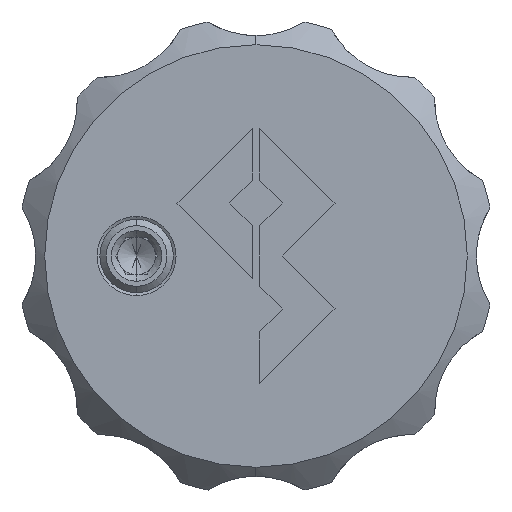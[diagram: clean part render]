
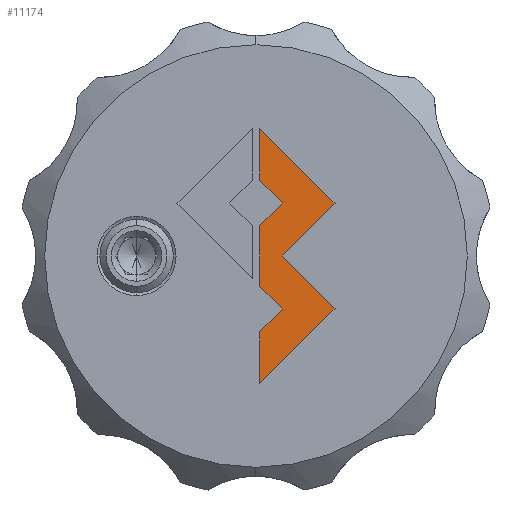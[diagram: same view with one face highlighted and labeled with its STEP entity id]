
A CAD part, left-side view. The second image highlights one B-rep face of the part: STEP entity #11174.
In plain terms, the highlighted planar face has unit normal (-1, 0, 0).
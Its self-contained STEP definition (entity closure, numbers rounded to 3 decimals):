
#100 = CARTESIAN_POINT ( 'NONE',  ( -22.7, -4.3, 2.857 ) ) ;
#262 = CARTESIAN_POINT ( 'NONE',  ( -22.7, -1.443, -2.886 ) ) ;
#285 = LINE ( 'NONE', #8106, #8579 ) ;
#389 = LINE ( 'NONE', #11856, #10305 ) ;
#474 = ORIENTED_EDGE ( 'NONE', *, *, #8766, .T. ) ;
#487 = ORIENTED_EDGE ( 'NONE', *, *, #11061, .T. ) ;
#881 = DIRECTION ( 'NONE',  ( 0., -0.707, -0.707 ) ) ;
#996 = EDGE_CURVE ( 'NONE', #5430, #5493, #1130, .T. ) ;
#1119 = EDGE_CURVE ( 'NONE', #5390, #10903, #389, .T. ) ;
#1130 = LINE ( 'NONE', #9360, #4701 ) ;
#1617 = CARTESIAN_POINT ( 'NONE',  ( -22.7, -0.2, -6.957 ) ) ;
#2058 = VERTEX_POINT ( 'NONE', #12307 ) ;
#2248 = LINE ( 'NONE', #3386, #9261 ) ;
#2277 = ORIENTED_EDGE ( 'NONE', *, *, #9490, .T. ) ;
#2311 = DIRECTION ( 'NONE',  ( 0., 0.707, -0.707 ) ) ;
#2503 = EDGE_CURVE ( 'NONE', #5493, #6856, #10407, .T. ) ;
#2852 = VECTOR ( 'NONE', #2969, 1000. ) ;
#2954 = LINE ( 'NONE', #9710, #4651 ) ;
#2969 = DIRECTION ( 'NONE',  ( 0., -0.707, 0.707 ) ) ;
#3242 = ORIENTED_EDGE ( 'NONE', *, *, #10895, .T. ) ;
#3325 = DIRECTION ( 'NONE',  ( 0., 0., -1. ) ) ;
#3330 = CARTESIAN_POINT ( 'NONE',  ( -22.7, -0.2, -1.643 ) ) ;
#3386 = CARTESIAN_POINT ( 'NONE',  ( -22.7, -1.443, -2.886 ) ) ;
#3469 = AXIS2_PLACEMENT_3D ( 'NONE', #1617, #6502, #8285 ) ;
#3976 = VERTEX_POINT ( 'NONE', #6090 ) ;
#4189 = LINE ( 'NONE', #6274, #7317 ) ;
#4219 = LINE ( 'NONE', #9891, #4650 ) ;
#4262 = CARTESIAN_POINT ( 'NONE',  ( -22.7, -1.443, 2.886 ) ) ;
#4341 = ORIENTED_EDGE ( 'NONE', *, *, #6585, .T. ) ;
#4542 = VERTEX_POINT ( 'NONE', #3330 ) ;
#4650 = VECTOR ( 'NONE', #3325, 1000. ) ;
#4651 = VECTOR ( 'NONE', #11481, 1000. ) ;
#4701 = VECTOR ( 'NONE', #5936, 1000. ) ;
#4803 = CARTESIAN_POINT ( 'NONE',  ( -22.7, -0.2, 1.643 ) ) ;
#4838 = CARTESIAN_POINT ( 'NONE',  ( -22.7, -0.2, 6.957 ) ) ;
#5058 = CARTESIAN_POINT ( 'NONE',  ( -22.7, -0.2, -4.129 ) ) ;
#5390 = VERTEX_POINT ( 'NONE', #262 ) ;
#5430 = VERTEX_POINT ( 'NONE', #4838 ) ;
#5493 = VERTEX_POINT ( 'NONE', #7352 ) ;
#5716 = ORIENTED_EDGE ( 'NONE', *, *, #9117, .T. ) ;
#5936 = DIRECTION ( 'NONE',  ( 0., 0., -1. ) ) ;
#6090 = CARTESIAN_POINT ( 'NONE',  ( -22.7, -4.3, -2.857 ) ) ;
#6274 = CARTESIAN_POINT ( 'NONE',  ( -22.7, -0.2, 1.643 ) ) ;
#6356 = DIRECTION ( 'NONE',  ( 0., 0.707, 0.707 ) ) ;
#6471 = VERTEX_POINT ( 'NONE', #7917 ) ;
#6502 = DIRECTION ( 'NONE',  ( 1., 0., 0. ) ) ;
#6585 = EDGE_CURVE ( 'NONE', #6471, #5430, #285, .T. ) ;
#6636 = VECTOR ( 'NONE', #10716, 1000. ) ;
#6808 = EDGE_LOOP ( 'NONE', ( #8127, #487, #5716, #3242, #4341, #10227, #10800, #10199, #474, #2277, #8078 ) ) ;
#6856 = VERTEX_POINT ( 'NONE', #4262 ) ;
#7006 = VECTOR ( 'NONE', #881, 1000. ) ;
#7035 = VERTEX_POINT ( 'NONE', #4803 ) ;
#7315 = EDGE_CURVE ( 'NONE', #10903, #7425, #7681, .T. ) ;
#7317 = VECTOR ( 'NONE', #7884, 1000. ) ;
#7352 = CARTESIAN_POINT ( 'NONE',  ( -22.7, -0.2, 4.129 ) ) ;
#7425 = VERTEX_POINT ( 'NONE', #11792 ) ;
#7537 = FACE_OUTER_BOUND ( 'NONE', #6808, .T. ) ;
#7681 = LINE ( 'NONE', #7790, #6636 ) ;
#7790 = CARTESIAN_POINT ( 'NONE',  ( -22.7, -0.2, -4.129 ) ) ;
#7884 = DIRECTION ( 'NONE',  ( 0., 0.707, -0.707 ) ) ;
#7917 = CARTESIAN_POINT ( 'NONE',  ( -22.7, -4.3, 2.857 ) ) ;
#8078 = ORIENTED_EDGE ( 'NONE', *, *, #1119, .T. ) ;
#8106 = CARTESIAN_POINT ( 'NONE',  ( -22.7, -0.2, 6.957 ) ) ;
#8127 = ORIENTED_EDGE ( 'NONE', *, *, #7315, .T. ) ;
#8285 = DIRECTION ( 'NONE',  ( 0., 0., -1. ) ) ;
#8579 = VECTOR ( 'NONE', #10025, 1000. ) ;
#8766 = EDGE_CURVE ( 'NONE', #7035, #4542, #4219, .T. ) ;
#9117 = EDGE_CURVE ( 'NONE', #3976, #2058, #10322, .T. ) ;
#9189 = CARTESIAN_POINT ( 'NONE',  ( -22.7, -1.443, 0. ) ) ;
#9261 = VECTOR ( 'NONE', #10826, 1000. ) ;
#9360 = CARTESIAN_POINT ( 'NONE',  ( -22.7, -0.2, 4.129 ) ) ;
#9461 = CARTESIAN_POINT ( 'NONE',  ( -22.7, -1.443, 2.886 ) ) ;
#9490 = EDGE_CURVE ( 'NONE', #4542, #5390, #2248, .T. ) ;
#9631 = VECTOR ( 'NONE', #6356, 1000. ) ;
#9710 = CARTESIAN_POINT ( 'NONE',  ( -22.7, -4.3, -2.857 ) ) ;
#9783 = LINE ( 'NONE', #100, #2852 ) ;
#9824 = EDGE_CURVE ( 'NONE', #6856, #7035, #4189, .T. ) ;
#9891 = CARTESIAN_POINT ( 'NONE',  ( -22.7, -0.2, -1.643 ) ) ;
#10025 = DIRECTION ( 'NONE',  ( 0., 0.707, 0.707 ) ) ;
#10199 = ORIENTED_EDGE ( 'NONE', *, *, #9824, .T. ) ;
#10227 = ORIENTED_EDGE ( 'NONE', *, *, #996, .T. ) ;
#10305 = VECTOR ( 'NONE', #2311, 1000. ) ;
#10322 = LINE ( 'NONE', #9189, #9631 ) ;
#10407 = LINE ( 'NONE', #9461, #7006 ) ;
#10716 = DIRECTION ( 'NONE',  ( 0., 0., -1. ) ) ;
#10800 = ORIENTED_EDGE ( 'NONE', *, *, #2503, .T. ) ;
#10826 = DIRECTION ( 'NONE',  ( 0., -0.707, -0.707 ) ) ;
#10895 = EDGE_CURVE ( 'NONE', #2058, #6471, #9783, .T. ) ;
#10903 = VERTEX_POINT ( 'NONE', #5058 ) ;
#11061 = EDGE_CURVE ( 'NONE', #7425, #3976, #2954, .T. ) ;
#11174 = ADVANCED_FACE ( 'NONE', ( #7537 ), #11208, .F. ) ;
#11208 = PLANE ( 'NONE',  #3469 ) ;
#11481 = DIRECTION ( 'NONE',  ( 0., -0.707, 0.707 ) ) ;
#11792 = CARTESIAN_POINT ( 'NONE',  ( -22.7, -0.2, -6.957 ) ) ;
#11856 = CARTESIAN_POINT ( 'NONE',  ( -22.7, -0.2, -4.129 ) ) ;
#12307 = CARTESIAN_POINT ( 'NONE',  ( -22.7, -1.443, 0. ) ) ;
